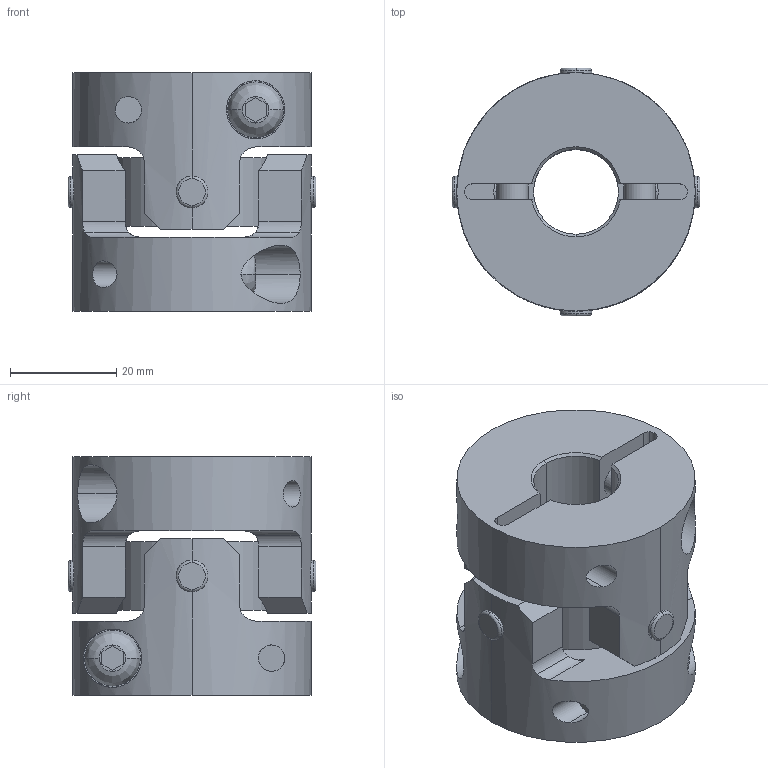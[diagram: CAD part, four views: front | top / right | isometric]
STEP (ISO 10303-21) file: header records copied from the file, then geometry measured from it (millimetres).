
FILE_DESCRIPTION((''),'2;1');
FILE_NAME('UA-45C-16×17.stp','2013-05-22T09:54:59',(''),(''),'AutoCAD STEP 2000i','AutoCAD 2000i',', , ');
FILE_SCHEMA(('CONFIG_CONTROL_DESIGN'));
Length unit declared in the file: millimetre
Products named in the file (7): UA-45C-8×17; 忣兜1; UA-4502-D17; BTN-M6; UA-4502-D08-1; UA-4502-D08; UA45-SEN
Assembly tree (8 placements, depth 3):
  UA-45C-8×17
    忣兜1
    UA-4502-D17
      BTN-M6
    UA-4502-D08-1
      BTN-M6
    UA-4502-D08
      BTN-M6
    UA45-SEN
Bounding box: 46.73 x 46.73 x 45 mm (x, y, z)
Volume: 48369 mm3; surface area: 19739.1 mm2
Topology: 1 solids, 1 shells, 206 faces, 554 edges, 364 vertices
Faces by surface type: cylinder 96, plane 78, cone 16, bspline 8, torus 8
Entity records: 8537 total; most frequent: CARTESIAN_POINT 3201, ORIENTED_EDGE 1108, DIRECTION 1068, EDGE_CURVE 554, AXIS2_PLACEMENT_3D 411, VERTEX_POINT 364, VECTOR 246, LINE 246
